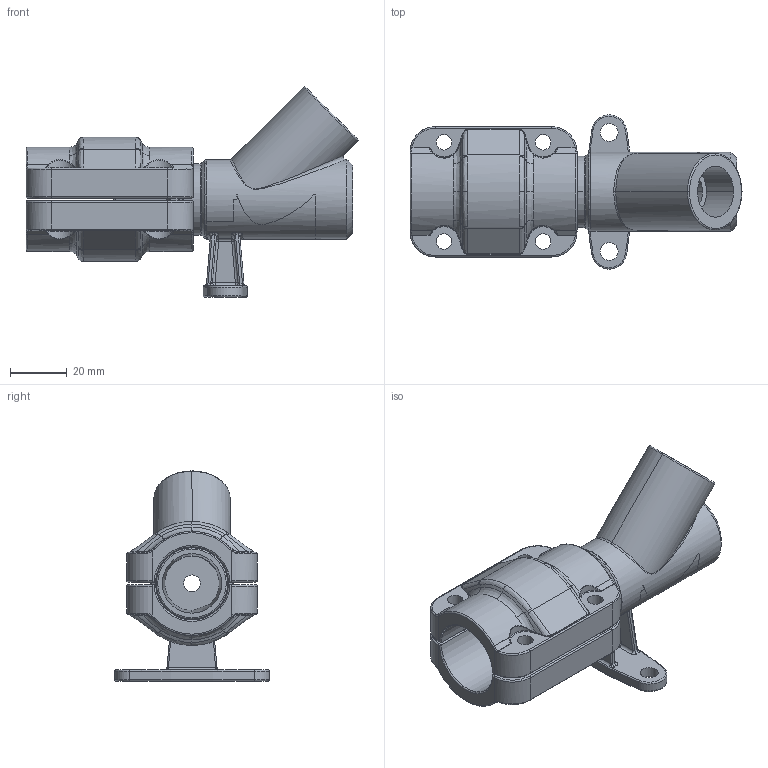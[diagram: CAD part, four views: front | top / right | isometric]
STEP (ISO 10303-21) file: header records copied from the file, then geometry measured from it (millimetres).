
FILE_DESCRIPTION(/* description */ (''),/* implementation_level */ '2;1');
FILE_NAME(/* name */ '2123.stp',/* time_stamp */ '2022-05-10T09:28:35+08:00',/* author */ (''),/* organization */ (''),/* preprocessor_version */ 'ST-DEVELOPER v11',/* originating_system */ 'SIEMENS PLM Software NX 7.5',/* authorisation */ '');
FILE_SCHEMA (('CONFIG_CONTROL_DESIGN'));
Length unit declared in the file: millimetre
Products named in the file (1): AdmiE323n7fj
Bounding box: 117.24 x 54.46 x 74.24 mm (x, y, z)
Volume: 86274.6 mm3; surface area: 37365.6 mm2
Topology: 3 solids, 3 shells, 518 faces, 1232 edges, 723 vertices
Faces by surface type: bspline 183, cylinder 159, plane 77, torus 64, cone 27, sphere 8
Full cylindrical faces by diameter (mm): 6.3 x2, 11 x1
Entity records: 22589 total; most frequent: CARTESIAN_POINT 11841, ORIENTED_EDGE 2454, DIRECTION 1968, EDGE_CURVE 1227, AXIS2_PLACEMENT_3D 808, VERTEX_POINT 726, EDGE_LOOP 553, ADVANCED_FACE 518
